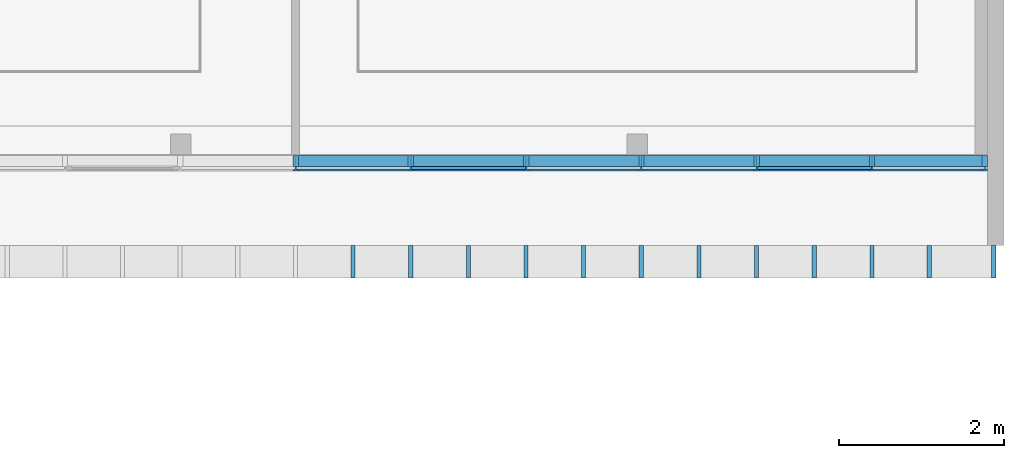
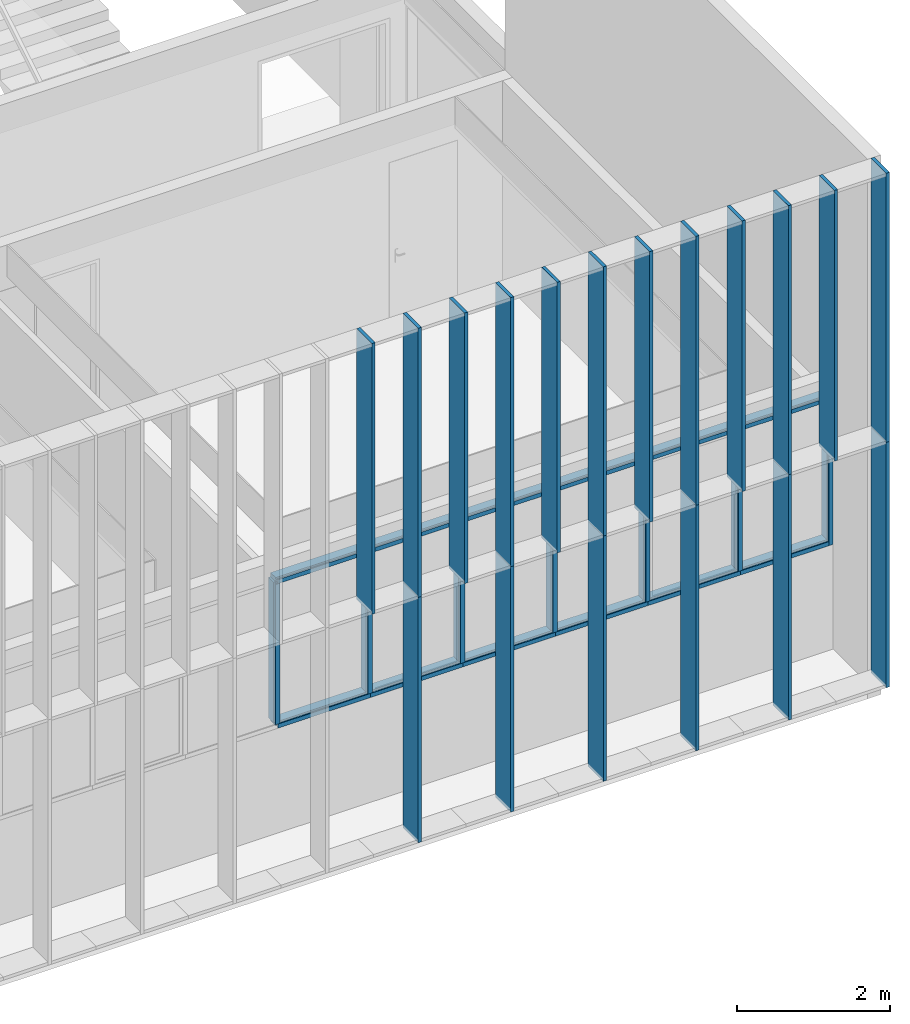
# One storey, part 15 of 106: 37 members, 2 elements without a shape of their own.
"""IFC2X3 building model written with IfcOpenShell, lengths in centimetres."""

import ifcopenshell
import ifcopenshell.guid

model = None  # the IFC model being written
_history = None  # IfcOwnerHistory: only IFC2X3 demands one
_inside = {}  # id of a spatial element -> (the spatial element, [elements in it])
_under = {}  # id of a project, library or spatial element -> (it, [spatial elements below it])
_declared = {}  # id of a project -> (the project, [libraries it declares])
_typed = {}  # id of a type object -> (the type object, [elements of that type])
_made_of = {}  # id of a material, layer set ... -> (it, [elements and type objects made of it])


def new_model(schema):
    """Start an empty IFC model of exactly this schema.

    Asked for "IFC4X3", IfcOpenShell would pick the latest addendum, in which some entities
    have other attributes; the version numbers below select the first issue.
    IFC2X3 requires an IfcOwnerHistory on every rooted entity: one is made here for all.
    """
    global model, _history
    if schema == "IFC4X3":
        model = ifcopenshell.file(schema_version=(4, 3, 0, 0))
    else:
        model = ifcopenshell.file(schema=schema)
    _inside.clear()
    _under.clear()
    _declared.clear()
    _typed.clear()
    _made_of.clear()
    _history = None
    if model.schema == "IFC2X3":
        org = make("IfcOrganization", Name="unknown")
        user = make(
            "IfcPersonAndOrganization",
            ThePerson=make("IfcPerson", FamilyName="unknown"),
            TheOrganization=org,
        )
        app = make(
            "IfcApplication",
            ApplicationDeveloper=org,
            Version="unknown",
            ApplicationFullName="unknown",
            ApplicationIdentifier="unknown",
        )
        _history = make(
            "IfcOwnerHistory",
            OwningUser=user,
            OwningApplication=app,
            ChangeAction="ADDED",
            CreationDate=0,
        )
    return model


def make(cls, **values):
    """One entity of the class cls with the attributes given. An attribute that is None is left unset."""
    return model.create_entity(
        cls, **{name: value for name, value in values.items() if value is not None}
    )


def entity(cls, *values):
    """Any entity or typed value of the class cls, its attributes in the order of the schema. None: left unset."""
    e = model.create_entity(cls)
    for i, value in enumerate(values):
        if value is not None:
            e[i] = value
    return e


def rooted(cls, **values):
    """An entity with a GlobalId (a new one), such as an element, a storey or a relation."""
    return make(cls, GlobalId=ifcopenshell.guid.new(), OwnerHistory=_history, **values)


def si_unit(unit_type, name, prefix=None):
    """IfcSIUnit, for example si_unit("LENGTHUNIT", "METRE", prefix="MILLI")."""
    return make("IfcSIUnit", UnitType=unit_type, Prefix=prefix, Name=name)


def converted_unit(unit_type, name, factor, base, dimensions=None, offset=None):
    """IfcConversionBasedUnit, such as the inch: factor (a typed value) times the base unit."""
    return make(
        "IfcConversionBasedUnit"
        if offset is None
        else "IfcConversionBasedUnitWithOffset",
        ConversionOffset=offset,
        Dimensions=None
        if dimensions is None
        else entity("IfcDimensionalExponents", *dimensions),
        UnitType=unit_type,
        Name=name,
        ConversionFactor=make(
            "IfcMeasureWithUnit", ValueComponent=factor, UnitComponent=base
        ),
    )


def derived_unit(unit_type, elements):
    """IfcDerivedUnit: a product of units, each with its exponent."""
    return make(
        "IfcDerivedUnit",
        Elements=[
            make("IfcDerivedUnitElement", Unit=unit, Exponent=power)
            for unit, power in elements
        ],
        UnitType=unit_type,
    )


def assignment(units):
    """IfcUnitAssignment: the units of a project."""
    return None if units is None else make("IfcUnitAssignment", Units=units)


def point(xyz):
    """IfcCartesianPoint."""
    return None if xyz is None else make("IfcCartesianPoint", Coordinates=xyz)


def direction(xyz):
    """IfcDirection."""
    return None if xyz is None else make("IfcDirection", DirectionRatios=xyz)


def frame(location, z_axis=None, x_axis=None):
    """IfcAxis2Placement3D, a coordinate frame: its origin and axes. An axis left out is left unset."""
    return make(
        "IfcAxis2Placement3D",
        Location=point(location),
        Axis=direction(z_axis),
        RefDirection=direction(x_axis),
    )


def frame_2d(location, x_axis=None):
    """IfcAxis2Placement2D, a coordinate frame in the plane: its origin and x axis."""
    return make(
        "IfcAxis2Placement2D", Location=point(location), RefDirection=direction(x_axis)
    )


def origin():
    """The frame at (0, 0, 0) with its axes left unset."""
    return frame((0.0, 0.0, 0.0))


def origin_2d_with_axis():
    """The frame at (0, 0) in the plane with the x axis (1, 0) written out."""
    return frame_2d((0.0, 0.0), x_axis=(1.0, 0.0))


def place(relative_to, where):
    """IfcLocalPlacement: puts the frame where relative to a parent placement (None: the world)."""
    return make(
        "IfcLocalPlacement", PlacementRelTo=relative_to, RelativePlacement=where
    )


def context(
    kind, dimensions, precision=None, world=None, true_north=None, identifier=None
):
    """IfcGeometricRepresentationContext, for example the 3D "Model" context."""
    return make(
        "IfcGeometricRepresentationContext",
        ContextIdentifier=identifier,
        ContextType=kind,
        CoordinateSpaceDimension=dimensions,
        Precision=precision,
        WorldCoordinateSystem=world,
        TrueNorth=true_north,
    )


def subcontext(parent, identifier, kind, view, scale=None):
    """IfcGeometricRepresentationSubContext, for example "Body" below "Model"."""
    return make(
        "IfcGeometricRepresentationSubContext",
        ContextIdentifier=identifier,
        ContextType=kind,
        ParentContext=parent,
        TargetScale=scale,
        TargetView=view,
    )


def project(units=None, contexts=None):
    """IfcProject with its units and contexts."""
    return rooted(
        "IfcProject",
        Name="project",
        RepresentationContexts=contexts,
        UnitsInContext=assignment(units),
    )


def spatial(cls, under=None, at=None, **own):
    """A site, building, storey or space (cls), placed at a placement, below another one or the project."""
    s = rooted(cls, ObjectPlacement=at, **own)
    if under is not None:
        _under.setdefault(under.id(), (under, []))[1].append(s)
    return s


def polyline(points):
    """IfcPolyline through the points."""
    return make("IfcPolyline", Points=[point(p) for p in points])


def profile(cls, at=None, kind="AREA", **sizes):
    """A parametric profile (cls). Its sizes go by their IFC names, for example OverallWidth=200.0."""
    return make(cls, ProfileType=kind, Position=at, **sizes)


def rectangle(**sizes):
    """IfcRectangleProfileDef."""
    return profile("IfcRectangleProfileDef", **sizes)


def outline(outer, holes=None, kind="AREA"):
    """IfcArbitraryClosedProfileDef: a profile drawn as a closed curve; with holes, ...WithVoids."""
    if holes is None:
        return make("IfcArbitraryClosedProfileDef", ProfileType=kind, OuterCurve=outer)
    return make(
        "IfcArbitraryProfileDefWithVoids",
        ProfileType=kind,
        OuterCurve=outer,
        InnerCurves=holes,
    )


def extrude(swept, where, along, depth):
    """IfcExtrudedAreaSolid: the profile swept, set in the frame where, extruded along a direction by depth."""
    return make(
        "IfcExtrudedAreaSolid",
        SweptArea=swept,
        Position=where,
        ExtrudedDirection=direction(along),
        Depth=depth,
    )


def shape(context_of_items, identifier, shape_type, items):
    """IfcShapeRepresentation: the items that make up one representation, for example the "Body"."""
    return make(
        "IfcShapeRepresentation",
        ContextOfItems=context_of_items,
        RepresentationIdentifier=identifier,
        RepresentationType=shape_type,
        Items=items,
    )


def source(mapping_origin, context_of_items, identifier, shape_type, items):
    """IfcRepresentationMap: a shape defined once, which mapped items show again and again."""
    return make(
        "IfcRepresentationMap",
        MappingOrigin=mapping_origin,
        MappedRepresentation=shape(context_of_items, identifier, shape_type, items),
    )


def transform(
    local_origin,
    x_axis=None,
    y_axis=None,
    z_axis=None,
    scale=None,
    scale2=None,
    scale3=None,
    uniform=True,
):
    """IfcCartesianTransformationOperator3D, or its non-uniform kind. x_axis, y_axis, z_axis: its Axis1, 2, 3."""
    if uniform:
        return make(
            "IfcCartesianTransformationOperator3D",
            Axis1=direction(x_axis),
            Axis2=direction(y_axis),
            LocalOrigin=point(local_origin),
            Scale=scale,
            Axis3=direction(z_axis),
        )
    return make(
        "IfcCartesianTransformationOperator3DnonUniform",
        Axis1=direction(x_axis),
        Axis2=direction(y_axis),
        LocalOrigin=point(local_origin),
        Scale=scale,
        Axis3=direction(z_axis),
        Scale2=scale2,
        Scale3=scale3,
    )


def mapped(mapping_source, mapping_target):
    """IfcMappedItem: shows the shape of a source again, moved by a transform."""
    return make(
        "IfcMappedItem", MappingSource=mapping_source, MappingTarget=mapping_target
    )


def material(Name=None, Category=None):
    """IfcMaterial."""
    return make("IfcMaterial", Name=Name, Category=Category)


def made_of(thing, what):
    """Note that an element or type object is made of a material, layer set ...; save() writes the relation."""
    if what is not None:
        _made_of.setdefault(what.id(), (what, []))[1].append(thing)
    return thing


def type_object(cls, material=None, **own):
    """A type object (cls), such as IfcWallType, which elements share."""
    return made_of(rooted(cls, **own), material)


def type_shapes(of_type, sources):
    """Give a type object the sources (RepresentationMaps) that its elements show as mapped items."""
    of_type.RepresentationMaps = sources


def element(
    cls,
    number,
    at=None,
    inside=None,
    cuts=None,
    type_object=None,
    material=None,
    context=None,
    identifier="Body",
    shape_type=None,
    held_by="IfcProductDefinitionShape",
    body=None,
    shapes=None,
    **own,
):
    """One element of the class cls, such as IfcWall. Its Tag is "e" and its number.

    at: its placement. inside: the storey or other place that contains it. cuts: it is an
    opening in that element (IfcRelVoidsElement). A single representation is given by context,
    identifier, shape_type and body (its items); several are given by shapes. held_by: the class
    of the entity that holds the representations. save() writes the other relations.
    """
    e = rooted(cls, Tag="e%d" % number, ObjectPlacement=at, **own)
    if body is not None:
        shapes = [shape(context, identifier, shape_type, body)]
    if shapes is not None:
        e.Representation = make(held_by, Representations=shapes)
    if inside is not None:
        _inside.setdefault(inside.id(), (inside, []))[1].append(e)
    if cuts is not None:
        rooted(
            "IfcRelVoidsElement", RelatingBuildingElement=cuts, RelatedOpeningElement=e
        )
    if type_object is not None:
        _typed.setdefault(type_object.id(), (type_object, []))[1].append(e)
    return made_of(e, material)


def aggregate(whole, parts):
    """IfcRelAggregates: a whole, such as a stair, and the parts it consists of."""
    return rooted("IfcRelAggregates", RelatingObject=whole, RelatedObjects=parts)


def save(model, path):
    """Write the relations noted so far, then the file.

    IfcRelAggregates (storeys below a building ...), IfcRelContainedInSpatialStructure (elements
    in a storey), IfcRelDefinesByType, IfcRelAssociatesMaterial and IfcRelDeclares: one each for
    every whole, place, type object, material and project.
    """
    for whole, parts in _under.values():
        aggregate(whole, parts)
    for where, things in _inside.values():
        rooted(
            "IfcRelContainedInSpatialStructure",
            RelatedElements=things,
            RelatingStructure=where,
        )
    for kind, things in _typed.values():
        rooted("IfcRelDefinesByType", RelatedObjects=things, RelatingType=kind)
    for what, things in _made_of.values():
        rooted("IfcRelAssociatesMaterial", RelatedObjects=things, RelatingMaterial=what)
    for by, libraries in _declared.values():
        rooted("IfcRelDeclares", RelatingContext=by, RelatedDefinitions=libraries)
    model.write(path)


model = new_model("IFC2X3")

# Units and contexts
model_context = context("Model", 3, precision=0.001, world=origin(), true_north=direction((6.12303176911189e-17, 1.0)))
body_context = subcontext(model_context, "Body", "Model", "MODEL_VIEW")
ifc_project = project(units=[si_unit("LENGTHUNIT", "METRE", prefix="CENTI"), si_unit("AREAUNIT", "SQUARE_METRE"), si_unit("VOLUMEUNIT", "CUBIC_METRE"), converted_unit("PLANEANGLEUNIT", "DEGREE", entity("IfcRatioMeasure", 0.0174532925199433), si_unit("PLANEANGLEUNIT", "RADIAN"), dimensions=[0, 0, 0, 0, 0, 0, 0]), si_unit("MASSUNIT", "GRAM", prefix="KILO"), derived_unit("MASSDENSITYUNIT", [(si_unit("MASSUNIT", "GRAM", prefix="KILO"), 1), (si_unit("LENGTHUNIT", "METRE"), -3)]), si_unit("TIMEUNIT", "SECOND"), si_unit("FREQUENCYUNIT", "HERTZ"), si_unit("THERMODYNAMICTEMPERATUREUNIT", "DEGREE_CELSIUS"), derived_unit("THERMALTRANSMITTANCEUNIT", [(si_unit("MASSUNIT", "GRAM", prefix="KILO"), 1), (si_unit("THERMODYNAMICTEMPERATUREUNIT", "KELVIN"), -1), (si_unit("TIMEUNIT", "SECOND"), -3)]), derived_unit("VOLUMETRICFLOWRATEUNIT", [(si_unit("LENGTHUNIT", "METRE"), 3), (si_unit("TIMEUNIT", "SECOND"), -1)]), si_unit("ELECTRICCURRENTUNIT", "AMPERE"), si_unit("ELECTRICVOLTAGEUNIT", "VOLT"), si_unit("POWERUNIT", "WATT"), si_unit("FORCEUNIT", "NEWTON", prefix="KILO"), si_unit("ILLUMINANCEUNIT", "LUX"), si_unit("LUMINOUSFLUXUNIT", "LUMEN"), si_unit("LUMINOUSINTENSITYUNIT", "CANDELA"), derived_unit("USERDEFINED", [(si_unit("MASSUNIT", "GRAM", prefix="KILO"), -1), (si_unit("LENGTHUNIT", "METRE"), -2), (si_unit("TIMEUNIT", "SECOND"), 3), (si_unit("LUMINOUSFLUXUNIT", "LUMEN"), 1)]), derived_unit("LINEARVELOCITYUNIT", [(si_unit("LENGTHUNIT", "METRE"), 1), (si_unit("TIMEUNIT", "SECOND"), -1)]), si_unit("PRESSUREUNIT", "PASCAL"), derived_unit("USERDEFINED", [(si_unit("LENGTHUNIT", "METRE"), -2), (si_unit("MASSUNIT", "GRAM", prefix="KILO"), 1), (si_unit("TIMEUNIT", "SECOND"), -2)])], contexts=[model_context])

# Site, building, storey
site_placement = place(None, frame((-2781.94577612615, 7442.24238424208, 0.0)))
site = spatial("IfcSite", under=ifc_project, at=site_placement, Name="Default", CompositionType="ELEMENT")
building_placement = place(site_placement, origin())
building = spatial("IfcBuilding", under=site, at=building_placement, CompositionType="ELEMENT")
storey_placement = place(building_placement, frame((0.0, 0.0, 422.0)))
storey = spatial("IfcBuildingStorey", under=building, at=storey_placement, Name="Toiture - Cuisine", CompositionType="ELEMENT", Elevation=421.999999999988)

# Curtain wall, members
curtain_wall_type_1 = type_object("IfcCurtainWallType", Name="Mur-rideau:07 - mur rideau trame 140 cm", PredefinedType="NOTDEFINED")
curtain_wall_1_placement = place(building_placement, origin())
curtain_wall_1 = element("IfcCurtainWall", 1, at=curtain_wall_1_placement, inside=storey, type_object=curtain_wall_type_1, Name="Mur-rideau:07 - mur rideau trame 140 cm", ObjectType="Mur-rideau:07 - mur rideau trame 140 cm")
ifc_material = material(Name="Aluminium")
member_type_1 = type_object("IfcMemberType", Name="150 x 25mm Détails", PredefinedType="MEMBER")
shared_shape_1 = source(origin(), body_context, "Body", "SweptSolid", [
    extrude(outline(polyline([(-5.6666666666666, -3.24999999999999), (-3.66666666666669, -3.24999999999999), (-3.66666666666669, -0.868749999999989), (-0.166666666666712, -0.868749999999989), (-0.166666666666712, -3.25000000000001), (13.3333333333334, -3.25000000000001), (13.3333333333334, 3.24999999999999), (-0.16666666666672, 3.24999999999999), (-0.16666666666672, 0.868749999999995), (-3.66666666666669, 0.868749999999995), (-3.66666666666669, 3.25), (-5.6666666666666, 3.25), (-5.6666666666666, -3.24999999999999)])), frame((-3.24999999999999, -1.96666666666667, -140.0), z_axis=(0.0, 0.0, 1.0), x_axis=(0.0, -1.0, 0.0)), (0.0, 0.0, 1.0), 140.000000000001),
])
type_shapes(member_type_1, [shared_shape_1])
member_1_placement = place(building_placement, frame((-1110.29988284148, -3046.51349958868, 743.0), z_axis=(1.0, 0.0, 0.0), x_axis=(0.0, 0.0, 1.0)))
member_1 = element("IfcMember", 2, at=member_1_placement, type_object=member_type_1, material=ifc_material, Name="Meneau rectangulaire:150 x 25mm Détails", ObjectType="Meneau rectangulaire:150 x 25mm Détails", context=body_context, shape_type="MappedRepresentation", body=[
    mapped(shared_shape_1, transform((0.0, 0.0, 0.0), scale=1.0)),
])
member_2_placement = place(building_placement, frame((-970.299882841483, -3046.51349958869, 743.0), z_axis=(1.0, 0.0, 0.0), x_axis=(0.0, 0.0, 1.0)))
member_2 = element("IfcMember", 3, at=member_2_placement, type_object=member_type_1, material=ifc_material, Name="Meneau rectangulaire:150 x 25mm Détails", ObjectType="Meneau rectangulaire:150 x 25mm Détails", context=body_context, shape_type="MappedRepresentation", body=[
    mapped(shared_shape_1, transform((0.0, 0.0, 0.0), scale=1.0)),
])
member_3_placement = place(building_placement, frame((-830.299882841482, -3046.51349958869, 743.0), z_axis=(1.0, 0.0, 0.0), x_axis=(0.0, 0.0, 1.0)))
member_3 = element("IfcMember", 4, at=member_3_placement, type_object=member_type_1, material=ifc_material, Name="Meneau rectangulaire:150 x 25mm Détails", ObjectType="Meneau rectangulaire:150 x 25mm Détails", context=body_context, shape_type="MappedRepresentation", body=[
    mapped(shared_shape_1, transform((0.0, 0.0, 0.0), scale=1.0)),
])
member_4_placement = place(building_placement, frame((-690.299882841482, -3046.51349958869, 743.0), z_axis=(1.0, 0.0, 0.0), x_axis=(0.0, 0.0, 1.0)))
member_4 = element("IfcMember", 5, at=member_4_placement, type_object=member_type_1, material=ifc_material, Name="Meneau rectangulaire:150 x 25mm Détails", ObjectType="Meneau rectangulaire:150 x 25mm Détails", context=body_context, shape_type="MappedRepresentation", body=[
    mapped(shared_shape_1, transform((0.0, 0.0, 0.0), scale=1.0)),
])
member_5_placement = place(building_placement, frame((-550.299882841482, -3046.51349958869, 743.0), z_axis=(1.0, 0.0, 0.0), x_axis=(0.0, 0.0, 1.0)))
member_5 = element("IfcMember", 6, at=member_5_placement, type_object=member_type_1, material=ifc_material, Name="Meneau rectangulaire:150 x 25mm Détails", ObjectType="Meneau rectangulaire:150 x 25mm Détails", context=body_context, shape_type="MappedRepresentation", body=[
    mapped(shared_shape_1, transform((0.0, 0.0, 0.0), scale=1.0)),
])
member_type_2 = type_object("IfcMemberType", Name="150 x 25mm Détails", PredefinedType="MEMBER")
shared_shape_2 = source(origin(), body_context, "Body", "SweptSolid", [
    extrude(outline(polyline([(-5.66666666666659, -3.25), (-3.66666666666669, -3.25), (-3.66666666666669, -0.868749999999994), (-0.166666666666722, -0.868749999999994), (-0.166666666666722, -3.25000000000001), (13.3333333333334, -3.24999999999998), (13.3333333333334, 3.25000000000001), (-0.166666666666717, 3.25000000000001), (-0.166666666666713, 0.868749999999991), (-3.66666666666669, 0.868749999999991), (-3.66666666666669, 3.24999999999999), (-5.66666666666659, 3.24999999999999), (-5.66666666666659, -3.25)])), frame((-3.24999999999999, -1.96666666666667, -140.0), z_axis=(0.0, 0.0, 1.0), x_axis=(0.0, -1.0, 0.0)), (0.0, 0.0, 1.0), 140.000000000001),
])
type_shapes(member_type_2, [shared_shape_2])
member_6_placement = place(building_placement, frame((-1250.29988284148, -3046.51349958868, 505.500000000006), z_axis=(-1.0, 0.0, 0.0), x_axis=(0.0, 0.0, -1.0)))
member_6 = element("IfcMember", 7, at=member_6_placement, type_object=member_type_2, material=ifc_material, Name="Meneau rectangulaire:150 x 25mm Détails", ObjectType="Meneau rectangulaire:150 x 25mm Détails", context=body_context, shape_type="MappedRepresentation", body=[
    mapped(shared_shape_2, transform((0.0, 0.0, 0.0), scale=1.0)),
])
member_7_placement = place(building_placement, frame((-1110.29988284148, -3046.51349958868, 505.500000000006), z_axis=(-1.0, 0.0, 0.0), x_axis=(0.0, 0.0, -1.0)))
member_7 = element("IfcMember", 8, at=member_7_placement, type_object=member_type_2, material=ifc_material, Name="Meneau rectangulaire:150 x 25mm Détails", ObjectType="Meneau rectangulaire:150 x 25mm Détails", context=body_context, shape_type="MappedRepresentation", body=[
    mapped(shared_shape_2, transform((0.0, 0.0, 0.0), scale=1.0)),
])
member_8_placement = place(building_placement, frame((-970.299882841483, -3046.51349958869, 505.500000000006), z_axis=(-1.0, 0.0, 0.0), x_axis=(0.0, 0.0, -1.0)))
member_8 = element("IfcMember", 9, at=member_8_placement, type_object=member_type_2, material=ifc_material, Name="Meneau rectangulaire:150 x 25mm Détails", ObjectType="Meneau rectangulaire:150 x 25mm Détails", context=body_context, shape_type="MappedRepresentation", body=[
    mapped(shared_shape_2, transform((0.0, 0.0, 0.0), scale=1.0)),
])
member_9_placement = place(building_placement, frame((-830.299882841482, -3046.51349958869, 505.500000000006), z_axis=(-1.0, 0.0, 0.0), x_axis=(0.0, 0.0, -1.0)))
member_9 = element("IfcMember", 10, at=member_9_placement, type_object=member_type_2, material=ifc_material, Name="Meneau rectangulaire:150 x 25mm Détails", ObjectType="Meneau rectangulaire:150 x 25mm Détails", context=body_context, shape_type="MappedRepresentation", body=[
    mapped(shared_shape_2, transform((0.0, 0.0, 0.0), scale=1.0)),
])
member_10_placement = place(building_placement, frame((-690.299882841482, -3046.51349958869, 505.500000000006), z_axis=(-1.0, 0.0, 0.0), x_axis=(0.0, 0.0, -1.0)))
member_10 = element("IfcMember", 11, at=member_10_placement, type_object=member_type_2, material=ifc_material, Name="Meneau rectangulaire:150 x 25mm Détails", ObjectType="Meneau rectangulaire:150 x 25mm Détails", context=body_context, shape_type="MappedRepresentation", body=[
    mapped(shared_shape_2, transform((0.0, 0.0, 0.0), scale=1.0)),
])
member_type_3 = type_object("IfcMemberType", Name="150 x 25mm Détails", PredefinedType="MEMBER")
shared_shape_3 = source(origin(), body_context, "Body", "SweptSolid", [
    extrude(outline(polyline([(-5.6666666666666, -3.24999999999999), (-3.66666666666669, -3.24999999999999), (-3.66666666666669, -0.86874999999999), (-0.166666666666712, -0.86874999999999), (-0.166666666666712, -3.25000000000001), (13.3333333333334, -3.25000000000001), (13.3333333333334, 3.24999999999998), (-0.16666666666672, 3.24999999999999), (-0.16666666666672, 0.868749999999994), (-3.66666666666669, 0.868749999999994), (-3.66666666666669, 3.25), (-5.6666666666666, 3.25), (-5.6666666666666, -3.24999999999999)])), frame((0.0, -1.96666666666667, -224.5), z_axis=(0.0, 0.0, 1.0), x_axis=(0.0, -1.0, 0.0)), (0.0, 0.0, 1.0), 224.5),
])
type_shapes(member_type_3, [shared_shape_3])
member_11_placement = place(building_placement, frame((-1250.29988284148, -3046.51349958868, 512.0), z_axis=(0.0, 0.0, -1.0), x_axis=(1.0, 0.0, 0.0)))
member_11 = element("IfcMember", 12, at=member_11_placement, type_object=member_type_3, material=ifc_material, Name="Meneau rectangulaire:150 x 25mm Détails", ObjectType="Meneau rectangulaire:150 x 25mm Détails", context=body_context, shape_type="MappedRepresentation", body=[
    mapped(shared_shape_3, transform((0.0, 0.0, 0.0), scale=1.0)),
])
member_12_placement = place(building_placement, frame((-1110.29988284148, -3046.51349958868, 512.0), z_axis=(0.0, 0.0, -1.0), x_axis=(1.0, 0.0, 0.0)))
member_12 = element("IfcMember", 13, at=member_12_placement, type_object=member_type_3, material=ifc_material, Name="Meneau rectangulaire:150 x 25mm Détails", ObjectType="Meneau rectangulaire:150 x 25mm Détails", context=body_context, shape_type="MappedRepresentation", body=[
    mapped(shared_shape_3, transform((0.0, 0.0, 0.0), scale=1.0)),
])
member_13_placement = place(building_placement, frame((-970.299882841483, -3046.51349958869, 512.0), z_axis=(0.0, 0.0, -1.0), x_axis=(1.0, 0.0, 0.0)))
member_13 = element("IfcMember", 14, at=member_13_placement, type_object=member_type_3, material=ifc_material, Name="Meneau rectangulaire:150 x 25mm Détails", ObjectType="Meneau rectangulaire:150 x 25mm Détails", context=body_context, shape_type="MappedRepresentation", body=[
    mapped(shared_shape_3, transform((0.0, 0.0, 0.0), scale=1.0)),
])
member_14_placement = place(building_placement, frame((-830.299882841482, -3046.51349958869, 512.0), z_axis=(0.0, 0.0, -1.0), x_axis=(1.0, 0.0, 0.0)))
member_14 = element("IfcMember", 15, at=member_14_placement, type_object=member_type_3, material=ifc_material, Name="Meneau rectangulaire:150 x 25mm Détails", ObjectType="Meneau rectangulaire:150 x 25mm Détails", context=body_context, shape_type="MappedRepresentation", body=[
    mapped(shared_shape_3, transform((0.0, 0.0, 0.0), scale=1.0)),
])
member_15_placement = place(building_placement, frame((-690.299882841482, -3046.51349958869, 512.0), z_axis=(0.0, 0.0, -1.0), x_axis=(1.0, 0.0, 0.0)))
member_15 = element("IfcMember", 16, at=member_15_placement, type_object=member_type_3, material=ifc_material, Name="Meneau rectangulaire:150 x 25mm Détails", ObjectType="Meneau rectangulaire:150 x 25mm Détails", context=body_context, shape_type="MappedRepresentation", body=[
    mapped(shared_shape_3, transform((0.0, 0.0, 0.0), scale=1.0)),
])
member_16_placement = place(building_placement, frame((-550.299882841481, -3046.51349958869, 512.0), z_axis=(0.0, 0.0, -1.0), x_axis=(1.0, 0.0, 0.0)))
member_16 = element("IfcMember", 17, at=member_16_placement, type_object=member_type_3, material=ifc_material, Name="Meneau rectangulaire:150 x 25mm Détails", ObjectType="Meneau rectangulaire:150 x 25mm Détails", context=body_context, shape_type="MappedRepresentation", body=[
    mapped(shared_shape_3, transform((0.0, 0.0, 0.0), scale=1.0)),
])
member_type_4 = type_object("IfcMemberType", Name="150 x 25mm Détails", PredefinedType="MEMBER")
shared_shape_4 = source(origin(), body_context, "Body", "SweptSolid", [
    extrude(outline(polyline([(-5.66666666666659, -3.25), (-3.66666666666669, -3.25), (-3.66666666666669, -0.868749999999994), (-0.166666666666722, -0.868749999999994), (-0.166666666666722, -3.25000000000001), (13.3333333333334, -3.24999999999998), (13.3333333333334, 3.25000000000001), (-0.166666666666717, 3.25000000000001), (-0.166666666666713, 0.868749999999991), (-3.66666666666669, 0.868749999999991), (-3.66666666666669, 3.24999999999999), (-5.66666666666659, 3.24999999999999), (-5.66666666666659, -3.25)])), frame((-3.24999999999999, -1.96666666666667, -140.0), z_axis=(0.0, 0.0, 1.0), x_axis=(0.0, -1.0, 0.0)), (0.0, 0.0, 1.0), 139.999999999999),
])
type_shapes(member_type_4, [shared_shape_4])
member_17_placement = place(building_placement, frame((-550.299882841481, -3046.51349958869, 505.500000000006), z_axis=(-1.0, 0.0, 0.0), x_axis=(0.0, 0.0, -1.0)))
member_17 = element("IfcMember", 18, at=member_17_placement, type_object=member_type_4, material=ifc_material, Name="Meneau rectangulaire:150 x 25mm Détails", ObjectType="Meneau rectangulaire:150 x 25mm Détails", context=body_context, shape_type="MappedRepresentation", body=[
    mapped(shared_shape_4, transform((0.0, 0.0, 0.0), scale=1.0)),
])
member_type_5 = type_object("IfcMemberType", Name="150 x 25mm Détails", PredefinedType="MEMBER")
shared_shape_5 = source(origin(), body_context, "Body", "SweptSolid", [
    extrude(outline(polyline([(-5.6666666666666, -3.24999999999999), (-3.66666666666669, -3.24999999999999), (-3.66666666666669, -0.868749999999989), (-0.166666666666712, -0.868749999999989), (-0.166666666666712, -3.25000000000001), (13.3333333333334, -3.25000000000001), (13.3333333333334, 3.24999999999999), (-0.16666666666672, 3.24999999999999), (-0.16666666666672, 0.868749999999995), (-3.66666666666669, 0.868749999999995), (-3.66666666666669, 3.25), (-5.6666666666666, 3.25), (-5.6666666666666, -3.24999999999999)])), frame((-3.24999999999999, -1.96666666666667, -237.499999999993), z_axis=(0.0, 0.0, 1.0), x_axis=(0.0, -1.0, 0.0)), (0.0, 0.0, 1.0), 237.499999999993),
])
type_shapes(member_type_5, [shared_shape_5])
member_18_placement = place(building_placement, frame((-409.999882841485, -3046.51349958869, 505.500000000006), z_axis=(0.0, 0.0, -1.0), x_axis=(1.0, 0.0, 0.0)))
member_18 = element("IfcMember", 19, at=member_18_placement, type_object=member_type_5, material=ifc_material, Name="Meneau rectangulaire:150 x 25mm Détails", ObjectType="Meneau rectangulaire:150 x 25mm Détails", context=body_context, shape_type="MappedRepresentation", body=[
    mapped(shared_shape_5, transform((0.0, 0.0, 0.0), scale=1.0)),
])
member_type_6 = type_object("IfcMemberType", Name="150 x 25mm Détails", PredefinedType="MEMBER")
shared_shape_6 = source(origin(), body_context, "Body", "SweptSolid", [
    extrude(outline(polyline([(-5.6666666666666, -3.24999999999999), (-3.66666666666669, -3.24999999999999), (-3.66666666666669, -0.868749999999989), (-0.166666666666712, -0.868749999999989), (-0.166666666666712, -3.25000000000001), (13.3333333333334, -3.25000000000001), (13.3333333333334, 3.24999999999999), (-0.16666666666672, 3.24999999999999), (-0.16666666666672, 0.868749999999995), (-3.66666666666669, 0.868749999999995), (-3.66666666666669, 3.25), (-5.6666666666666, 3.25), (-5.6666666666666, -3.24999999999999)])), frame((-3.24999999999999, -1.96666666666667, -140.0), z_axis=(0.0, 0.0, 1.0), x_axis=(0.0, -1.0, 0.0)), (0.0, 0.0, 1.0), 140.0),
])
type_shapes(member_type_6, [shared_shape_6])
member_19_placement = place(building_placement, frame((-410.299882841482, -3046.51349958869, 743.0), z_axis=(1.0, 0.0, 0.0), x_axis=(0.0, 0.0, 1.0)))
member_19 = element("IfcMember", 20, at=member_19_placement, type_object=member_type_6, material=ifc_material, Name="Meneau rectangulaire:150 x 25mm Détails", ObjectType="Meneau rectangulaire:150 x 25mm Détails", context=body_context, shape_type="MappedRepresentation", body=[
    mapped(shared_shape_6, transform((0.0, 0.0, 0.0), scale=1.0)),
])
aggregate(curtain_wall_1, [member_1, member_2, member_3, member_4, member_5, member_6, member_7, member_8, member_9, member_10, member_17, member_18, member_11, member_12, member_13, member_14, member_15, member_16, member_19])

curtain_wall_type_2 = type_object("IfcCurtainWallType", Name="Mur-rideau:Epines - 400x30mm", PredefinedType="NOTDEFINED")
curtain_wall_2_placement = place(building_placement, origin())
curtain_wall_2 = element("IfcCurtainWall", 21, at=curtain_wall_2_placement, inside=storey, type_object=curtain_wall_type_2, Name="Mur-rideau:Epines - 400x30mm", ObjectType="Mur-rideau:Epines - 400x30mm")
member_type_7 = type_object("IfcMemberType", Name="Epine sud (400x50 mm)", PredefinedType="MEMBER")
shared_shape_7 = source(origin(), body_context, "Body", "SweptSolid", [
    extrude(rectangle(XDim=40.0, YDim=5.0, at=origin_2d_with_axis()), frame((0.0, 0.0, -392.5), z_axis=(0.0, 0.0, 1.0), x_axis=(0.0, -1.0, 0.0)), (0.0, 0.0, 1.0), 392.5),
])
type_shapes(member_type_7, [shared_shape_7])
member_20_placement = place(building_placement, frame((-1110.49987760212, -3160.31349958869, 353.0), z_axis=(0.0, 0.0, -1.0), x_axis=(1.0, 0.0, 0.0)))
member_20 = element("IfcMember", 22, at=member_20_placement, type_object=member_type_7, material=ifc_material, Name="Meneau rectangulaire:Epine sud (400x50 mm)", ObjectType="Meneau rectangulaire:Epine sud (400x50 mm)", context=body_context, shape_type="MappedRepresentation", body=[
    mapped(shared_shape_7, transform((0.0, 0.0, 0.0), scale=1.0)),
])
member_21_placement = place(building_placement, frame((-970.499877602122, -3160.31349958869, 353.0), z_axis=(0.0, 0.0, -1.0), x_axis=(1.0, 0.0, 0.0)))
member_21 = element("IfcMember", 23, at=member_21_placement, type_object=member_type_7, material=ifc_material, Name="Meneau rectangulaire:Epine sud (400x50 mm)", ObjectType="Meneau rectangulaire:Epine sud (400x50 mm)", context=body_context, shape_type="MappedRepresentation", body=[
    mapped(shared_shape_7, transform((0.0, 0.0, 0.0), scale=1.0)),
])
member_22_placement = place(building_placement, frame((-830.499877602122, -3160.31349958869, 353.0), z_axis=(0.0, 0.0, -1.0), x_axis=(1.0, 0.0, 0.0)))
member_22 = element("IfcMember", 24, at=member_22_placement, type_object=member_type_7, material=ifc_material, Name="Meneau rectangulaire:Epine sud (400x50 mm)", ObjectType="Meneau rectangulaire:Epine sud (400x50 mm)", context=body_context, shape_type="MappedRepresentation", body=[
    mapped(shared_shape_7, transform((0.0, 0.0, 0.0), scale=1.0)),
])
member_23_placement = place(building_placement, frame((-690.499877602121, -3160.31349958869, 353.0), z_axis=(0.0, 0.0, -1.0), x_axis=(1.0, 0.0, 0.0)))
member_23 = element("IfcMember", 25, at=member_23_placement, type_object=member_type_7, material=ifc_material, Name="Meneau rectangulaire:Epine sud (400x50 mm)", ObjectType="Meneau rectangulaire:Epine sud (400x50 mm)", context=body_context, shape_type="MappedRepresentation", body=[
    mapped(shared_shape_7, transform((0.0, 0.0, 0.0), scale=1.0)),
])
member_24_placement = place(building_placement, frame((-550.49987760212, -3160.31349958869, 353.0), z_axis=(0.0, 0.0, -1.0), x_axis=(1.0, 0.0, 0.0)))
member_24 = element("IfcMember", 26, at=member_24_placement, type_object=member_type_7, material=ifc_material, Name="Meneau rectangulaire:Epine sud (400x50 mm)", ObjectType="Meneau rectangulaire:Epine sud (400x50 mm)", context=body_context, shape_type="MappedRepresentation", body=[
    mapped(shared_shape_7, transform((0.0, 0.0, 0.0), scale=1.0)),
])
member_type_8 = type_object("IfcMemberType", Name="Epine sud (400x50 mm)", PredefinedType="MEMBER")
shared_shape_8 = source(origin(), body_context, "Body", "SweptSolid", [
    extrude(rectangle(XDim=40.0, YDim=5.0, at=origin_2d_with_axis()), frame((0.0, 0.0, -430.5), z_axis=(0.0, 0.0, 1.0), x_axis=(0.0, -1.0, 0.0)), (0.0, 0.0, 1.0), 430.5),
])
type_shapes(member_type_8, [shared_shape_8])
member_25_placement = place(building_placement, frame((-1110.49987760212, -3160.31349958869, 745.5), z_axis=(0.0, 0.0, -1.0), x_axis=(1.0, 0.0, 0.0)))
member_25 = element("IfcMember", 27, at=member_25_placement, type_object=member_type_8, material=ifc_material, Name="Meneau rectangulaire:Epine sud (400x50 mm)", ObjectType="Meneau rectangulaire:Epine sud (400x50 mm)", context=body_context, shape_type="MappedRepresentation", body=[
    mapped(shared_shape_8, transform((0.0, 0.0, 0.0), scale=1.0)),
])
member_26_placement = place(building_placement, frame((-970.499877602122, -3160.31349958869, 745.5), z_axis=(0.0, 0.0, -1.0), x_axis=(1.0, 0.0, 0.0)))
member_26 = element("IfcMember", 28, at=member_26_placement, type_object=member_type_8, material=ifc_material, Name="Meneau rectangulaire:Epine sud (400x50 mm)", ObjectType="Meneau rectangulaire:Epine sud (400x50 mm)", context=body_context, shape_type="MappedRepresentation", body=[
    mapped(shared_shape_8, transform((0.0, 0.0, 0.0), scale=1.0)),
])
member_27_placement = place(building_placement, frame((-830.499877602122, -3160.31349958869, 745.5), z_axis=(0.0, 0.0, -1.0), x_axis=(1.0, 0.0, 0.0)))
member_27 = element("IfcMember", 29, at=member_27_placement, type_object=member_type_8, material=ifc_material, Name="Meneau rectangulaire:Epine sud (400x50 mm)", ObjectType="Meneau rectangulaire:Epine sud (400x50 mm)", context=body_context, shape_type="MappedRepresentation", body=[
    mapped(shared_shape_8, transform((0.0, 0.0, 0.0), scale=1.0)),
])
member_28_placement = place(building_placement, frame((-690.499877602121, -3160.31349958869, 745.5), z_axis=(0.0, 0.0, -1.0), x_axis=(1.0, 0.0, 0.0)))
member_28 = element("IfcMember", 30, at=member_28_placement, type_object=member_type_8, material=ifc_material, Name="Meneau rectangulaire:Epine sud (400x50 mm)", ObjectType="Meneau rectangulaire:Epine sud (400x50 mm)", context=body_context, shape_type="MappedRepresentation", body=[
    mapped(shared_shape_8, transform((0.0, 0.0, 0.0), scale=1.0)),
])
member_29_placement = place(building_placement, frame((-550.49987760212, -3160.31349958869, 745.5), z_axis=(0.0, 0.0, -1.0), x_axis=(1.0, 0.0, 0.0)))
member_29 = element("IfcMember", 31, at=member_29_placement, type_object=member_type_8, material=ifc_material, Name="Meneau rectangulaire:Epine sud (400x50 mm)", ObjectType="Meneau rectangulaire:Epine sud (400x50 mm)", context=body_context, shape_type="MappedRepresentation", body=[
    mapped(shared_shape_8, transform((0.0, 0.0, 0.0), scale=1.0)),
])
member_type_9 = type_object("IfcMemberType", Name="Epine sud (400x50 mm)", PredefinedType="MEMBER")
shared_shape_9 = source(origin(), body_context, "Body", "SweptSolid", [
    extrude(rectangle(XDim=40.0, YDim=5.0, at=origin_2d_with_axis()), frame((-2.5, 0.0, -392.5), z_axis=(0.0, 0.0, 1.0), x_axis=(0.0, -1.0, 0.0)), (0.0, 0.0, 1.0), 392.5),
])
type_shapes(member_type_9, [shared_shape_9])
member_30_placement = place(building_placement, frame((-399.999882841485, -3160.31349958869, 353.0), z_axis=(0.0, 0.0, -1.0), x_axis=(1.0, 0.0, 0.0)))
member_30 = element("IfcMember", 32, at=member_30_placement, type_object=member_type_9, material=ifc_material, Name="Meneau rectangulaire:Epine sud (400x50 mm)", ObjectType="Meneau rectangulaire:Epine sud (400x50 mm)", context=body_context, shape_type="MappedRepresentation", body=[
    mapped(shared_shape_9, transform((0.0, 0.0, 0.0), scale=1.0)),
])
member_type_10 = type_object("IfcMemberType", Name="Epine sud (400x50 mm)", PredefinedType="MEMBER")
shared_shape_10 = source(origin(), body_context, "Body", "SweptSolid", [
    extrude(rectangle(XDim=40.0, YDim=5.0, at=origin_2d_with_axis()), frame((-2.5, 0.0, -430.5), z_axis=(0.0, 0.0, 1.0), x_axis=(0.0, -1.0, 0.0)), (0.0, 0.0, 1.0), 430.5),
])
type_shapes(member_type_10, [shared_shape_10])
member_31_placement = place(building_placement, frame((-399.999882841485, -3160.31349958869, 745.5), z_axis=(0.0, 0.0, -1.0), x_axis=(1.0, 0.0, 0.0)))
member_31 = element("IfcMember", 33, at=member_31_placement, type_object=member_type_10, material=ifc_material, Name="Meneau rectangulaire:Epine sud (400x50 mm)", ObjectType="Meneau rectangulaire:Epine sud (400x50 mm)", context=body_context, shape_type="MappedRepresentation", body=[
    mapped(shared_shape_10, transform((0.0, 0.0, 0.0), scale=1.0)),
])
member_type_11 = type_object("IfcMemberType", Name="Epine sud (400x50 mm)", PredefinedType="MEMBER")
shared_shape_11 = source(origin(), body_context, "Body", "SweptSolid", [
    extrude(rectangle(XDim=40.0, YDim=5.0, at=origin_2d_with_axis()), frame((0.0, 0.0, -433.0), z_axis=(0.0, 0.0, 1.0), x_axis=(0.0, -1.0, 0.0)), (0.0, 0.0, 1.0), 433.0),
])
type_shapes(member_type_11, [shared_shape_11])
member_32_placement = place(building_placement, frame((-1180.49987760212, -3160.31349958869, 743.0), z_axis=(0.0, 0.0, -1.0), x_axis=(1.0, 0.0, 0.0)))
member_32 = element("IfcMember", 34, at=member_32_placement, type_object=member_type_11, material=ifc_material, Name="Meneau rectangulaire:Epine sud (400x50 mm)", ObjectType="Meneau rectangulaire:Epine sud (400x50 mm)", context=body_context, shape_type="MappedRepresentation", body=[
    mapped(shared_shape_11, transform((0.0, 0.0, 0.0), scale=1.0)),
])
member_33_placement = place(building_placement, frame((-1040.49987760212, -3160.31349958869, 743.0), z_axis=(0.0, 0.0, -1.0), x_axis=(1.0, 0.0, 0.0)))
member_33 = element("IfcMember", 35, at=member_33_placement, type_object=member_type_11, material=ifc_material, Name="Meneau rectangulaire:Epine sud (400x50 mm)", ObjectType="Meneau rectangulaire:Epine sud (400x50 mm)", context=body_context, shape_type="MappedRepresentation", body=[
    mapped(shared_shape_11, transform((0.0, 0.0, 0.0), scale=1.0)),
])
member_34_placement = place(building_placement, frame((-900.499877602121, -3160.31349958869, 743.0), z_axis=(0.0, 0.0, -1.0), x_axis=(1.0, 0.0, 0.0)))
member_34 = element("IfcMember", 36, at=member_34_placement, type_object=member_type_11, material=ifc_material, Name="Meneau rectangulaire:Epine sud (400x50 mm)", ObjectType="Meneau rectangulaire:Epine sud (400x50 mm)", context=body_context, shape_type="MappedRepresentation", body=[
    mapped(shared_shape_11, transform((0.0, 0.0, 0.0), scale=1.0)),
])
member_35_placement = place(building_placement, frame((-760.499877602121, -3160.31349958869, 743.0), z_axis=(0.0, 0.0, -1.0), x_axis=(1.0, 0.0, 0.0)))
member_35 = element("IfcMember", 37, at=member_35_placement, type_object=member_type_11, material=ifc_material, Name="Meneau rectangulaire:Epine sud (400x50 mm)", ObjectType="Meneau rectangulaire:Epine sud (400x50 mm)", context=body_context, shape_type="MappedRepresentation", body=[
    mapped(shared_shape_11, transform((0.0, 0.0, 0.0), scale=1.0)),
])
member_36_placement = place(building_placement, frame((-620.499877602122, -3160.31349958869, 743.0), z_axis=(0.0, 0.0, -1.0), x_axis=(1.0, 0.0, 0.0)))
member_36 = element("IfcMember", 38, at=member_36_placement, type_object=member_type_11, material=ifc_material, Name="Meneau rectangulaire:Epine sud (400x50 mm)", ObjectType="Meneau rectangulaire:Epine sud (400x50 mm)", context=body_context, shape_type="MappedRepresentation", body=[
    mapped(shared_shape_11, transform((0.0, 0.0, 0.0), scale=1.0)),
])
member_37_placement = place(building_placement, frame((-480.749880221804, -3160.31349958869, 743.0), z_axis=(0.0, 0.0, -1.0), x_axis=(1.0, 0.0, 0.0)))
member_37 = element("IfcMember", 39, at=member_37_placement, type_object=member_type_11, material=ifc_material, Name="Meneau rectangulaire:Epine sud (400x50 mm)", ObjectType="Meneau rectangulaire:Epine sud (400x50 mm)", context=body_context, shape_type="MappedRepresentation", body=[
    mapped(shared_shape_11, transform((0.0, 0.0, 0.0), scale=1.0)),
])
aggregate(curtain_wall_2, [member_25, member_20, member_26, member_21, member_27, member_22, member_28, member_23, member_29, member_24, member_30, member_31, member_32, member_33, member_34, member_35, member_36, member_37])

save(model, "model.ifc")
